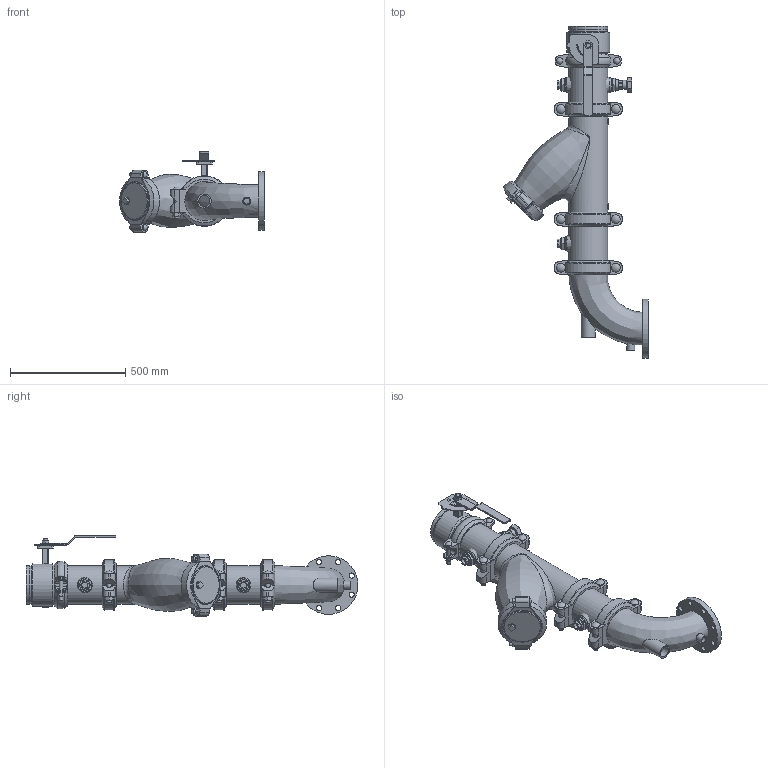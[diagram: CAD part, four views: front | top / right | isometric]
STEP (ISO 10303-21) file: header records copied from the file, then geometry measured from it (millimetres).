
FILE_DESCRIPTION(/* description */ ('VIC SVI PUMP DROP HORZ S/382 (OGSxFLG) (S/924-1.25)','CAx-IF Rec.Pracs.---Representation and Presentation of Product Manufacturing Information (PMI)---4.0---2014-10-13'),/* implementation_level */ '2;1');
FILE_NAME(/* name */ 'C:\Users\Vjadhav\AppData\Roaming\Autodesk\ApplicationPlugins\Victaulic.Temp\A115\Series 382 (OGSxFLG)_924 (1.25)_06.0x05.0 (150x125).stp',/* time_stamp */ '2022-03-17T12:19:32+06:00',/* author */ ('kkamble'),/* organization */ ('Victaulic'),/* preprocessor_version */ 'ST-DEVELOPER v17.2',/* originating_system */ 'Autodesk Inventor 2019',/* authorisation */ '');
FILE_SCHEMA (('AP242_MANAGED_MODEL_BASED_3D_ENGINEERING_MIM_LF { 1 0 10303 442 1 1 4 }'));
Length unit declared in the file: inch
Products named in the file (13): 382_924 (1.25)-06.0x05.0; PIPE-06.0; 107N-06.0; 732-06.0; 732-06.0_1; 07-06.0; 732-06.0_2; PIPE-06.2; 761-06.0; 924-04.0x01.25; 177N-06.0; 923-04.0x0.75; R100F-06.0x05.0
Assembly tree (15 placements, depth 3):
  382_924 (1.25)-06.0x05.0
    PIPE-06.0
    107N-06.0
    732-06.0
      732-06.0_1
      07-06.0
      732-06.0_2
    177N-06.0  x3
    PIPE-06.2
    761-06.0
    924-04.0x01.25
    923-04.0x0.75  x2
    R100F-06.0x05.0
Bounding box: 627.13 x 1438.28 x 347.22 mm (x, y, z)
Volume: 13711860.9 mm3; surface area: 2880401.8 mm2
Topology: 14 solids, 18 shells, 890 faces, 2286 edges, 1523 vertices
Faces by surface type: plane 499, cylinder 294, bspline 30, torus 30, cone 27, sphere 10
Full cylindrical faces by diameter (mm): 4.826 x10, 8.636 x4, 15.875 x8, 19.05 x8, 21.336 x1, 22.352 x8, 22.86 x1, 26.67 x4, 27.381 x4, 31.75 x1, 34.29 x1, 37.694 x6, 38.608 x1, 42.164 x1, 45.974 x6, 48.26 x1, 48.514 x1, 55.118 x1, 55.626 x3, 60.96 x1, 128.194 x1, 139.7 x1, 153.797 x1, 154.051 x5, 155.575 x5, 163.957 x11, 168.275 x26, 185.42 x1, 254 x1
Entity records: 26076 total; most frequent: CARTESIAN_POINT 8639, DIRECTION 3530, ORIENTED_EDGE 3300, EDGE_CURVE 1650, AXIS2_PLACEMENT_3D 1346, VERTEX_POINT 1105, LINE 838, VECTOR 838
